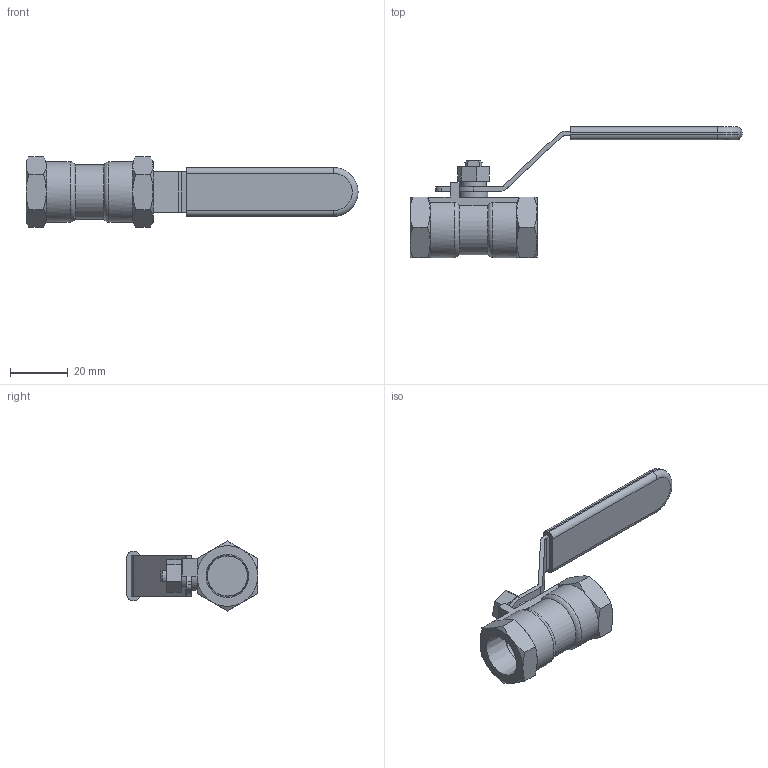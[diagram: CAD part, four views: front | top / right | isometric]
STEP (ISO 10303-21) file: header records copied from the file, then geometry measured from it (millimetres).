
FILE_DESCRIPTION(/* description */ ('Eriks item no: 12427442'),/* implementation_level */ '2;1');
FILE_NAME(/* name */ '7744-DN10-RB-1000PSI-NPT.stp',/* time_stamp */ '2024-02-16T13:17:48+01:00',/* author */ ('roger.thijssen'),/* organization */ (''),/* preprocessor_version */ 'ST-DEVELOPER v19.2',/* originating_system */ 'Autodesk Inventor 2024',/* authorisation */ '');
FILE_SCHEMA (('AUTOMOTIVE_DESIGN { 1 0 10303 214 3 1 1 }'));
Length unit declared in the file: millimetre
Products named in the file (1): Ball valve, 7744-DN10-RB-1000PSI-NPT
Bounding box: 115 x 45.5 x 24.25 mm (x, y, z)
Volume: 16304.8 mm3; surface area: 9506.7 mm2
Topology: 1 solids, 1 shells, 342 faces, 886 edges, 580 vertices
Faces by surface type: plane 219, cylinder 48, bspline 43, cone 28, torus 4
Full cylindrical faces by diameter (mm): 9 x1, 10 x1, 13.889 x2
Entity records: 11076 total; most frequent: CARTESIAN_POINT 2633, ORIENTED_EDGE 1772, DIRECTION 1466, EDGE_CURVE 886, LINE 614, VECTOR 614, VERTEX_POINT 580, AXIS2_PLACEMENT_3D 426
